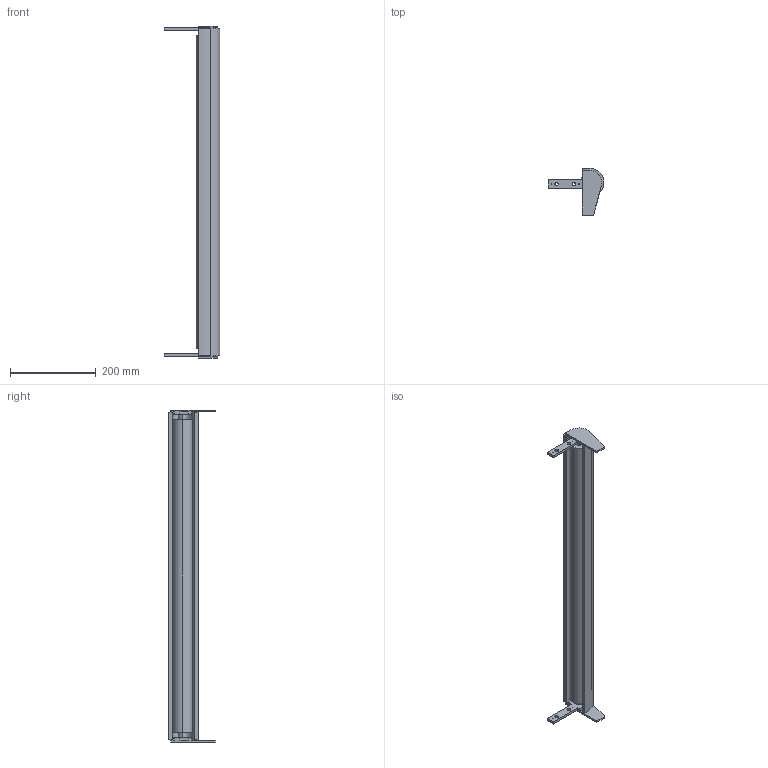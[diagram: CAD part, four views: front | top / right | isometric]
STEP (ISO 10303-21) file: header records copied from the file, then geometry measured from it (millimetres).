
FILE_DESCRIPTION (( 'STEP AP214' ), '1' );
FILE_NAME ('FS-160-MTS-100.ALU omloop 770.STEP', '2017-02-08T12:08:01', ( '' ), ( '' ), 'SwSTEP 2.0', 'SolidWorks 2016', '' );
FILE_SCHEMA (( 'AUTOMOTIVE_DESIGN' ));
Length unit declared in the file: millimetre
Products named in the file (1): FS-160-MTS-100.ALU omloop 770
Bounding box: 130.3 x 109 x 773 mm (x, y, z)
Volume: 2066793 mm3; surface area: 339701.8 mm2
Topology: 2 solids, 2 shells, 70 faces, 186 edges, 124 vertices
Faces by surface type: cylinder 36, plane 34
Entity records: 2277 total; most frequent: DIRECTION 400, CARTESIAN_POINT 381, ORIENTED_EDGE 372, EDGE_CURVE 186, AXIS2_PLACEMENT_3D 143, VERTEX_POINT 124, VECTOR 114, LINE 114
